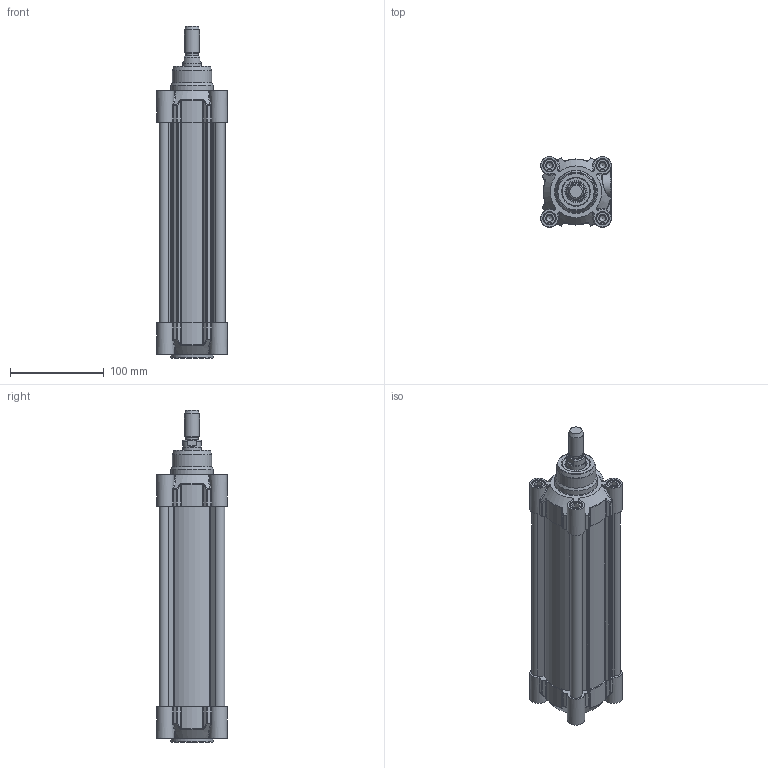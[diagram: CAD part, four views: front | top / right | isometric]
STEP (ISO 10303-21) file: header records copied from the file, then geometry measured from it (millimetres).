
FILE_DESCRIPTION(/* description */ ('CILINDRO D.E. MAGNETICO AMMORTIZZATO ISO 15552'),/* implementation_level */ '2;1');
FILE_NAME(/* name */ 'T:\Archivio Inventor\- 00 NUOVI STP PER SITO CON STELO CHE SI MUOVE\SERIE H - U\SERIE HDM\HDM063 - TUBO NUOVO\HDM063.160.GS.M.stp',/* time_stamp */ '2018-07-30T14:35:34+02:00',/* author */ ('carlo.corazza'),/* organization */ (''),/* preprocessor_version */ 'ST-DEVELOPER v16.5',/* originating_system */ 'Autodesk Inventor 2017',/* authorisation */ '');
FILE_SCHEMA (('AUTOMOTIVE_DESIGN { 1 0 10303 214 3 1 1 }'));
Length unit declared in the file: millimetre
Products named in the file (5): HDM063.160.GS.M; TP; TA; STELO-160; CORPO-160
Assembly tree (4 placements, depth 2):
  HDM063.160.GS.M
    TP
    TA
    STELO-160
    CORPO-160
Bounding box: 75 x 75 x 354 mm (x, y, z)
Volume: 567612.8 mm3; surface area: 257024.5 mm2
Topology: 4 solids, 27 shells, 1241 faces, 2936 edges, 1818 vertices
Faces by surface type: plane 368, cylinder 297, bspline 288, torus 108, cone 106, sphere 74
Full cylindrical faces by diameter (mm): 3 x2, 3.4 x2, 4.8 x2, 5.25 x2, 6.647 x8, 8 x8, 8.3 x12, 9.8 x4, 9.9 x2, 10 x6, 12 x3, 13 x8, 13.3 x8, 13.5 x1, 14.95 x2, 16 x1, 19.5 x1, 20 x1, 20.8 x1, 20.847 x1, 24 x1, 26 x2, 30 x3, 42 x1, 45 x2, 63 x1
Entity records: 40772 total; most frequent: CARTESIAN_POINT 13075, ORIENTED_EDGE 5326, DIRECTION 5100, EDGE_CURVE 2663, AXIS2_PLACEMENT_3D 2037, VERTEX_POINT 1763, EDGE_LOOP 1576, STYLED_ITEM 1245
